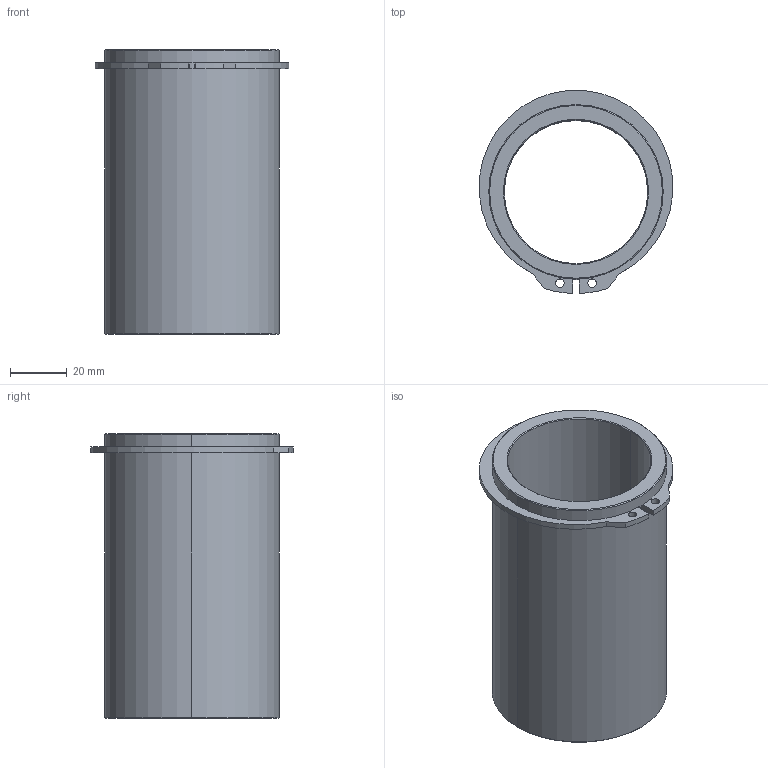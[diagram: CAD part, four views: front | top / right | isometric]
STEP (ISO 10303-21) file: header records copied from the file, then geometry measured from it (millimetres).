
FILE_DESCRIPTION((''),'2;1');
FILE_NAME('C13_050_100.stp','2008-12-17T16:10:11',(''),(''),'Mechanical Desktop 2009','Mechanical Desktop 2009',', , ');
FILE_SCHEMA(('CONFIG_CONTROL_DESIGN'));
Length unit declared in the file: millimetre
Products named in the file (2): Product; blmdl1
Assembly tree (1 placements, depth 2):
  Product
    blmdl1
Bounding box: 67.9 x 71.23 x 100 mm (x, y, z)
Volume: 96976.5 mm3; surface area: 40090.6 mm2
Topology: 2 solids, 2 shells, 34 faces, 76 edges, 48 vertices
Faces by surface type: cylinder 16, plane 10, cone 8
Entity records: 1075 total; most frequent: DIRECTION 188, CARTESIAN_POINT 160, ORIENTED_EDGE 152, AXIS2_PLACEMENT_3D 76, EDGE_CURVE 76, VERTEX_POINT 48, EDGE_LOOP 42, CIRCLE 40
